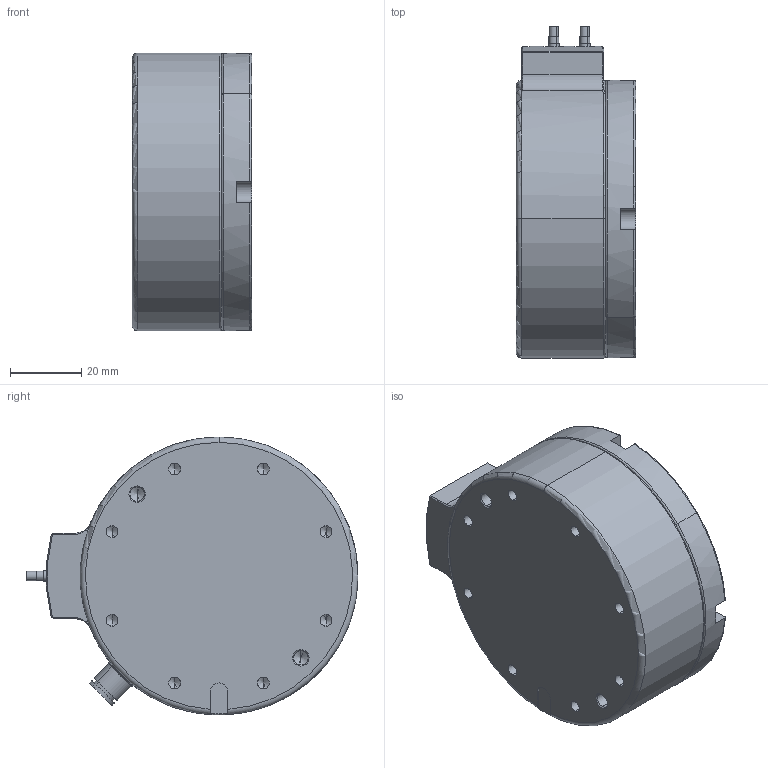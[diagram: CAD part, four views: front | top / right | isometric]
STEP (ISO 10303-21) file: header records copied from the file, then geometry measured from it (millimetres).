
FILE_DESCRIPTION (( 'STEP AP214' ), '1' );
FILE_NAME ('LQTMJ-5.STEP', '2019-11-14T09:49:32', ( 'PC' ), ( 'Microsoft' ), 'SwSTEP 2.0', 'SolidWorks 2018', '' );
FILE_SCHEMA (( 'AUTOMOTIVE_DESIGN' ));
Length unit declared in the file: millimetre
Products named in the file (1): LQTMJ-5
Bounding box: 33.5 x 93.16 x 78 mm (x, y, z)
Volume: 157187.8 mm3; surface area: 46533.5 mm2
Topology: 17 solids, 17 shells, 687 faces, 1559 edges, 918 vertices
Faces by surface type: plane 250, cylinder 220, cone 142, torus 71, bspline 4
Entity records: 30277 total; most frequent: CARTESIAN_POINT 7000, DIRECTION 3491, ORIENTED_EDGE 3002, EDGE_CURVE 1501, AXIS2_PLACEMENT_3D 1394, VERTEX_POINT 918, EDGE_LOOP 795, CIRCLE 710
